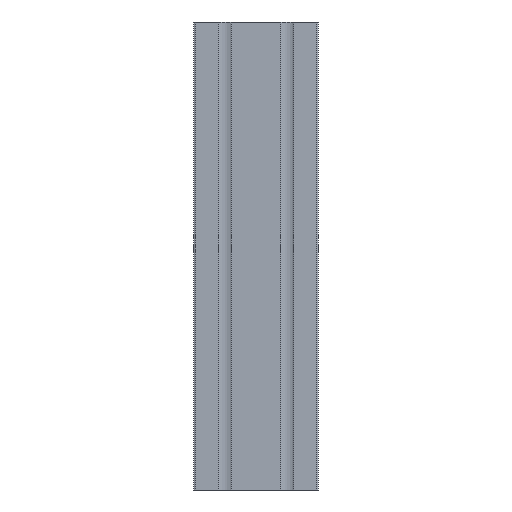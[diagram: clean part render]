
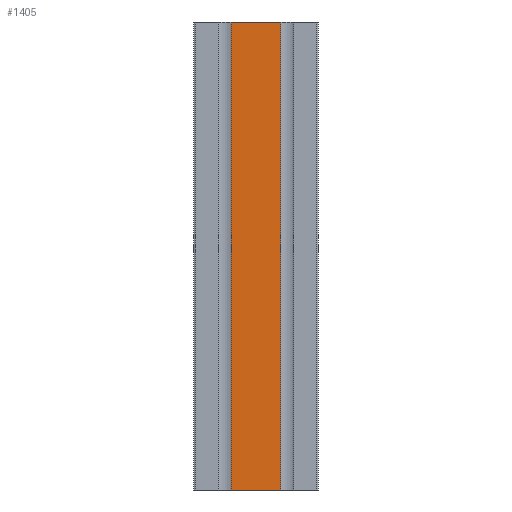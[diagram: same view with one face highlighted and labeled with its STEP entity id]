
A CAD part, left-side view. The second image highlights one B-rep face of the part: STEP entity #1405.
In plain terms, the highlighted planar face has unit normal (-1, 0, 0).
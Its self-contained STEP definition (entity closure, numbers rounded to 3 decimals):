
#57 = VECTOR ( 'NONE', #3416, 1000. ) ;
#62 = LINE ( 'NONE', #3362, #1582 ) ;
#99 = LINE ( 'NONE', #2095, #3426 ) ;
#124 = CARTESIAN_POINT ( 'NONE',  ( 1478.184, 801.985, 0. ) ) ;
#165 = EDGE_CURVE ( 'NONE', #3547, #1293, #62, .T. ) ;
#203 = LINE ( 'NONE', #1124, #2678 ) ;
#482 = CARTESIAN_POINT ( 'NONE',  ( 1478.184, 833.585, 300. ) ) ;
#497 = PLANE ( 'NONE',  #3932 ) ;
#561 = EDGE_CURVE ( 'NONE', #3547, #2621, #3585, .T. ) ;
#700 = ORIENTED_EDGE ( 'NONE', *, *, #2705, .T. ) ;
#1083 = CARTESIAN_POINT ( 'NONE',  ( 1478.184, 801.985, 300. ) ) ;
#1124 = CARTESIAN_POINT ( 'NONE',  ( 1478.184, 833.585, 0. ) ) ;
#1149 = DIRECTION ( 'NONE',  ( 0., 0., -1. ) ) ;
#1198 = EDGE_LOOP ( 'NONE', ( #700, #2392, #4161, #1443 ) ) ;
#1293 = VERTEX_POINT ( 'NONE', #2137 ) ;
#1405 = ADVANCED_FACE ( 'NONE', ( #3473 ), #497, .F. ) ;
#1443 = ORIENTED_EDGE ( 'NONE', *, *, #165, .T. ) ;
#1468 = DIRECTION ( 'NONE',  ( 0., -1., 0. ) ) ;
#1518 = CARTESIAN_POINT ( 'NONE',  ( 1478.184, 833.585, 300. ) ) ;
#1582 = VECTOR ( 'NONE', #3345, 1000. ) ;
#2095 = CARTESIAN_POINT ( 'NONE',  ( 1478.184, 801.985, 300. ) ) ;
#2117 = CARTESIAN_POINT ( 'NONE',  ( 1478.184, 833.585, 300. ) ) ;
#2137 = CARTESIAN_POINT ( 'NONE',  ( 1478.184, 833.585, 0. ) ) ;
#2392 = ORIENTED_EDGE ( 'NONE', *, *, #3398, .F. ) ;
#2621 = VERTEX_POINT ( 'NONE', #1083 ) ;
#2678 = VECTOR ( 'NONE', #1468, 1000. ) ;
#2705 = EDGE_CURVE ( 'NONE', #1293, #4148, #203, .T. ) ;
#3345 = DIRECTION ( 'NONE',  ( 0., 0., -1. ) ) ;
#3362 = CARTESIAN_POINT ( 'NONE',  ( 1478.184, 833.585, 300. ) ) ;
#3398 = EDGE_CURVE ( 'NONE', #2621, #4148, #99, .T. ) ;
#3416 = DIRECTION ( 'NONE',  ( 0., -1., 0. ) ) ;
#3426 = VECTOR ( 'NONE', #1149, 1000. ) ;
#3473 = FACE_OUTER_BOUND ( 'NONE', #1198, .T. ) ;
#3501 = DIRECTION ( 'NONE',  ( 0., 0., -1. ) ) ;
#3547 = VERTEX_POINT ( 'NONE', #1518 ) ;
#3585 = LINE ( 'NONE', #2117, #57 ) ;
#3932 = AXIS2_PLACEMENT_3D ( 'NONE', #482, #4061, #3501 ) ;
#4061 = DIRECTION ( 'NONE',  ( 1., 0., 0. ) ) ;
#4148 = VERTEX_POINT ( 'NONE', #124 ) ;
#4161 = ORIENTED_EDGE ( 'NONE', *, *, #561, .F. ) ;
